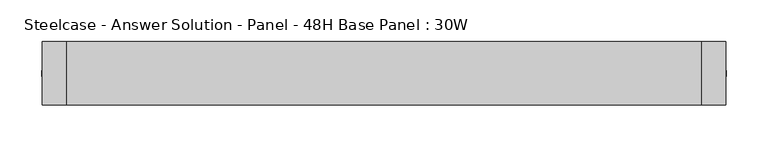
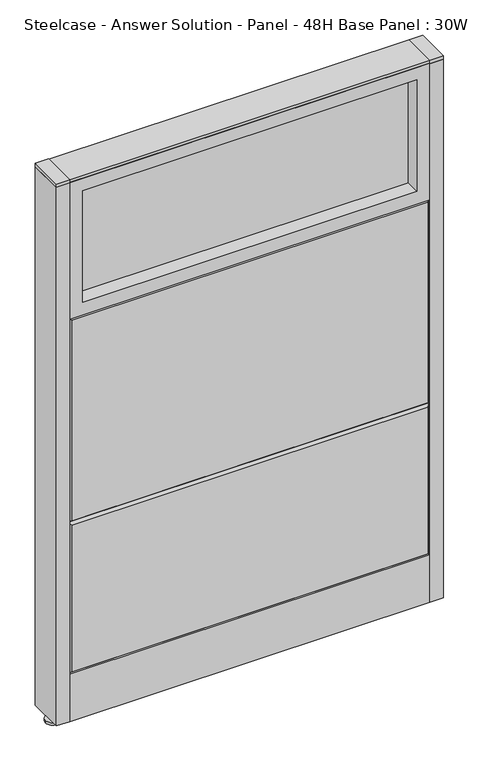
"""IFC4 building model written with IfcOpenShell, lengths in millimetres: furniture geometry, Steelcase - Answer Solution - Panel - 48H Base Panel : 30W."""

import ifcopenshell
import ifcopenshell.guid

model = None  # the IFC model being written
_history = None  # IfcOwnerHistory: only IFC2X3 demands one
_inside = {}  # id of a spatial element -> (the spatial element, [elements in it])
_under = {}  # id of a project, library or spatial element -> (it, [spatial elements below it])
_declared = {}  # id of a project -> (the project, [libraries it declares])
_typed = {}  # id of a type object -> (the type object, [elements of that type])
_made_of = {}  # id of a material, layer set ... -> (it, [elements and type objects made of it])


def new_model(schema):
    """Start an empty IFC model of exactly this schema.

    Asked for "IFC4X3", IfcOpenShell would pick the latest addendum, in which some entities
    have other attributes; the version numbers below select the first issue.
    IFC2X3 requires an IfcOwnerHistory on every rooted entity: one is made here for all.
    """
    global model, _history
    if schema == "IFC4X3":
        model = ifcopenshell.file(schema_version=(4, 3, 0, 0))
    else:
        model = ifcopenshell.file(schema=schema)
    _inside.clear()
    _under.clear()
    _declared.clear()
    _typed.clear()
    _made_of.clear()
    _history = None
    if model.schema == "IFC2X3":
        org = make("IfcOrganization", Name="unknown")
        user = make(
            "IfcPersonAndOrganization",
            ThePerson=make("IfcPerson", FamilyName="unknown"),
            TheOrganization=org,
        )
        app = make(
            "IfcApplication",
            ApplicationDeveloper=org,
            Version="unknown",
            ApplicationFullName="unknown",
            ApplicationIdentifier="unknown",
        )
        _history = make(
            "IfcOwnerHistory",
            OwningUser=user,
            OwningApplication=app,
            ChangeAction="ADDED",
            CreationDate=0,
        )
    return model


def make(cls, **values):
    """One entity of the class cls with the attributes given. An attribute that is None is left unset."""
    return model.create_entity(
        cls, **{name: value for name, value in values.items() if value is not None}
    )


def rooted(cls, **values):
    """An entity with a GlobalId (a new one), such as an element, a storey or a relation."""
    return make(cls, GlobalId=ifcopenshell.guid.new(), OwnerHistory=_history, **values)


def si_unit(unit_type, name, prefix=None):
    """IfcSIUnit, for example si_unit("LENGTHUNIT", "METRE", prefix="MILLI")."""
    return make("IfcSIUnit", UnitType=unit_type, Prefix=prefix, Name=name)


def assignment(units):
    """IfcUnitAssignment: the units of a project."""
    return None if units is None else make("IfcUnitAssignment", Units=units)


def point(xyz):
    """IfcCartesianPoint."""
    return None if xyz is None else make("IfcCartesianPoint", Coordinates=xyz)


def direction(xyz):
    """IfcDirection."""
    return None if xyz is None else make("IfcDirection", DirectionRatios=xyz)


def frame(location, z_axis=None, x_axis=None):
    """IfcAxis2Placement3D, a coordinate frame: its origin and axes. An axis left out is left unset."""
    return make(
        "IfcAxis2Placement3D",
        Location=point(location),
        Axis=direction(z_axis),
        RefDirection=direction(x_axis),
    )


def frame_2d(location, x_axis=None):
    """IfcAxis2Placement2D, a coordinate frame in the plane: its origin and x axis."""
    return make(
        "IfcAxis2Placement2D", Location=point(location), RefDirection=direction(x_axis)
    )


def origin():
    """The frame at (0, 0, 0) with its axes left unset."""
    return frame((0.0, 0.0, 0.0))


def place(relative_to, where):
    """IfcLocalPlacement: puts the frame where relative to a parent placement (None: the world)."""
    return make(
        "IfcLocalPlacement", PlacementRelTo=relative_to, RelativePlacement=where
    )


def context(
    kind, dimensions, precision=None, world=None, true_north=None, identifier=None
):
    """IfcGeometricRepresentationContext, for example the 3D "Model" context."""
    return make(
        "IfcGeometricRepresentationContext",
        ContextIdentifier=identifier,
        ContextType=kind,
        CoordinateSpaceDimension=dimensions,
        Precision=precision,
        WorldCoordinateSystem=world,
        TrueNorth=true_north,
    )


def project(units=None, contexts=None):
    """IfcProject with its units and contexts."""
    return rooted(
        "IfcProject",
        Name="project",
        RepresentationContexts=contexts,
        UnitsInContext=assignment(units),
    )


def spatial(cls, under=None, at=None, **own):
    """A site, building, storey or space (cls), placed at a placement, below another one or the project."""
    s = rooted(cls, ObjectPlacement=at, **own)
    if under is not None:
        _under.setdefault(under.id(), (under, []))[1].append(s)
    return s


def polyline(points):
    """IfcPolyline through the points."""
    return make("IfcPolyline", Points=[point(p) for p in points])


def circle_curve(where, radius):
    """IfcCircle in the frame where."""
    return make("IfcCircle", Position=where, Radius=radius)


def trimmed(basis, trim1, trim2, sense, master):
    """IfcTrimmedCurve: the piece of a basis curve between two trims."""
    return make(
        "IfcTrimmedCurve",
        BasisCurve=basis,
        Trim1=trim1,
        Trim2=trim2,
        SenseAgreement=sense,
        MasterRepresentation=master,
    )


def segment(curve, same_sense, transition):
    """IfcCompositeCurveSegment."""
    return make(
        "IfcCompositeCurveSegment",
        Transition=transition,
        SameSense=same_sense,
        ParentCurve=curve,
    )


def composite_curve(segments, self_intersect=None):
    """IfcCompositeCurve: segments joined end to end."""
    return make("IfcCompositeCurve", Segments=segments, SelfIntersect=self_intersect)


def outline(outer, holes=None, kind="AREA"):
    """IfcArbitraryClosedProfileDef: a profile drawn as a closed curve; with holes, ...WithVoids."""
    if holes is None:
        return make("IfcArbitraryClosedProfileDef", ProfileType=kind, OuterCurve=outer)
    return make(
        "IfcArbitraryProfileDefWithVoids",
        ProfileType=kind,
        OuterCurve=outer,
        InnerCurves=holes,
    )


def extrude(swept, where, along, depth):
    """IfcExtrudedAreaSolid: the profile swept, set in the frame where, extruded along a direction by depth."""
    return make(
        "IfcExtrudedAreaSolid",
        SweptArea=swept,
        Position=where,
        ExtrudedDirection=direction(along),
        Depth=depth,
    )


def faces_of(points, faces, orient=None, outer=None):
    """IfcFace entities. A face is a list of loops; a loop is a list of indices into points, from 0.

    orient and outer hold one flag for each loop. By default every Orientation is true, the
    first loop of a face is its IfcFaceOuterBound and the others are IfcFaceBound.
    """
    made = []
    for i, loops in enumerate(faces):
        bounds = []
        for j, loop in enumerate(loops):
            is_outer = j == 0 if outer is None else outer[i][j]
            bounds.append(
                make(
                    "IfcFaceOuterBound" if is_outer else "IfcFaceBound",
                    Bound=make("IfcPolyLoop", Polygon=[points[k] for k in loop]),
                    Orientation=True if orient is None else orient[i][j],
                )
            )
        made.append(make("IfcFace", Bounds=bounds))
    return made


def faceted_brep(points, faces, orient=None, outer=None, voids=None):
    """IfcFacetedBrep: a solid bounded by flat faces; with voids (closed shells), ...WithVoids."""
    shared = [point(p) for p in points]
    hull = make("IfcClosedShell", CfsFaces=faces_of(shared, faces, orient, outer))
    if voids is None:
        return make("IfcFacetedBrep", Outer=hull)
    return make(
        "IfcFacetedBrepWithVoids",
        Outer=hull,
        Voids=[
            make(cls, CfsFaces=faces_of(shared, fs, o, b)) for cls, fs, o, b in voids
        ],
    )


def shape(context_of_items, identifier, shape_type, items):
    """IfcShapeRepresentation: the items that make up one representation, for example the "Body"."""
    return make(
        "IfcShapeRepresentation",
        ContextOfItems=context_of_items,
        RepresentationIdentifier=identifier,
        RepresentationType=shape_type,
        Items=items,
    )


def source(mapping_origin, context_of_items, identifier, shape_type, items):
    """IfcRepresentationMap: a shape defined once, which mapped items show again and again."""
    return make(
        "IfcRepresentationMap",
        MappingOrigin=mapping_origin,
        MappedRepresentation=shape(context_of_items, identifier, shape_type, items),
    )


def transform(
    local_origin,
    x_axis=None,
    y_axis=None,
    z_axis=None,
    scale=None,
    scale2=None,
    scale3=None,
    uniform=True,
):
    """IfcCartesianTransformationOperator3D, or its non-uniform kind. x_axis, y_axis, z_axis: its Axis1, 2, 3."""
    if uniform:
        return make(
            "IfcCartesianTransformationOperator3D",
            Axis1=direction(x_axis),
            Axis2=direction(y_axis),
            LocalOrigin=point(local_origin),
            Scale=scale,
            Axis3=direction(z_axis),
        )
    return make(
        "IfcCartesianTransformationOperator3DnonUniform",
        Axis1=direction(x_axis),
        Axis2=direction(y_axis),
        LocalOrigin=point(local_origin),
        Scale=scale,
        Axis3=direction(z_axis),
        Scale2=scale2,
        Scale3=scale3,
    )


def mapped(mapping_source, mapping_target):
    """IfcMappedItem: shows the shape of a source again, moved by a transform."""
    return make(
        "IfcMappedItem", MappingSource=mapping_source, MappingTarget=mapping_target
    )


def made_of(thing, what):
    """Note that an element or type object is made of a material, layer set ...; save() writes the relation."""
    if what is not None:
        _made_of.setdefault(what.id(), (what, []))[1].append(thing)
    return thing


def element(
    cls,
    number,
    at=None,
    inside=None,
    cuts=None,
    type_object=None,
    material=None,
    context=None,
    identifier="Body",
    shape_type=None,
    held_by="IfcProductDefinitionShape",
    body=None,
    shapes=None,
    **own,
):
    """One element of the class cls, such as IfcWall. Its Tag is "e" and its number.

    at: its placement. inside: the storey or other place that contains it. cuts: it is an
    opening in that element (IfcRelVoidsElement). A single representation is given by context,
    identifier, shape_type and body (its items); several are given by shapes. held_by: the class
    of the entity that holds the representations. save() writes the other relations.
    """
    e = rooted(cls, Tag="e%d" % number, ObjectPlacement=at, **own)
    if body is not None:
        shapes = [shape(context, identifier, shape_type, body)]
    if shapes is not None:
        e.Representation = make(held_by, Representations=shapes)
    if inside is not None:
        _inside.setdefault(inside.id(), (inside, []))[1].append(e)
    if cuts is not None:
        rooted(
            "IfcRelVoidsElement", RelatingBuildingElement=cuts, RelatedOpeningElement=e
        )
    if type_object is not None:
        _typed.setdefault(type_object.id(), (type_object, []))[1].append(e)
    return made_of(e, material)


def aggregate(whole, parts):
    """IfcRelAggregates: a whole, such as a stair, and the parts it consists of."""
    return rooted("IfcRelAggregates", RelatingObject=whole, RelatedObjects=parts)


def save(model, path):
    """Write the relations noted so far, then the file.

    IfcRelAggregates (storeys below a building ...), IfcRelContainedInSpatialStructure (elements
    in a storey), IfcRelDefinesByType, IfcRelAssociatesMaterial and IfcRelDeclares: one each for
    every whole, place, type object, material and project.
    """
    for whole, parts in _under.values():
        aggregate(whole, parts)
    for where, things in _inside.values():
        rooted(
            "IfcRelContainedInSpatialStructure",
            RelatedElements=things,
            RelatingStructure=where,
        )
    for kind, things in _typed.values():
        rooted("IfcRelDefinesByType", RelatedObjects=things, RelatingType=kind)
    for what, things in _made_of.values():
        rooted("IfcRelAssociatesMaterial", RelatedObjects=things, RelatingMaterial=what)
    for by, libraries in _declared.values():
        rooted("IfcRelDeclares", RelatingContext=by, RelatedDefinitions=libraries)
    model.write(path)


def steelcase_answer_solution_panel_48h_base_panel_30w_e3e7fd3b(model_context):
    return source(origin(), model_context, "Body", "SolidModel", [
        extrude(outline(composite_curve([segment(trimmed(circle_curve(frame_2d((395.224, 0.0320214)), 5.08), [point((400.304, 0.0320214))], [point((390.144, 0.0320214))], False, "CARTESIAN"), True, "CONTINUOUS"), segment(trimmed(circle_curve(frame_2d((395.224, 0.0320214)), 5.08), [point((390.144, 0.0320214))], [point((400.304, 0.0320214))], False, "CARTESIAN"), True, "CONTINUOUS")], self_intersect=False)), frame((0.0, 0.0, 5.0799671), z_axis=(0.0, 0.0, 1.0), x_axis=(1.0, 0.0, 0.0)), (0.0, 0.0, 1.0), 10.414),
        extrude(outline(composite_curve([segment(trimmed(circle_curve(frame_2d((395.224, 0.0320214)), 15.24), [point((410.464, 0.0320214))], [point((379.984, 0.0320214))], False, "CARTESIAN"), True, "CONTINUOUS"), segment(trimmed(circle_curve(frame_2d((395.224, 0.0320214)), 15.24), [point((379.984, 0.0320214))], [point((410.464, 0.0320214))], False, "CARTESIAN"), True, "CONTINUOUS")], self_intersect=False)), frame((0.0, 0.0, -3.29e-05), z_axis=(0.0, 0.0, 1.0), x_axis=(1.0, 0.0, 0.0)), (0.0, 0.0, 1.0), 5.08),
        extrude(outline(polyline([(409.575, 38.1320408), (409.575, -38.0679592), (381.0, -38.0679592), (381.0, 38.1320408), (409.575, 38.1320408)])), frame((0.0, 0.0, 1218.2348), z_axis=(0.0, 0.0, 1.0), x_axis=(1.0, 0.0, 0.0)), (0.0, 0.0, 1.0), 7.3151671),
        extrude(outline(polyline([(409.575, 38.1320408), (409.575, -38.0679592), (381.0, -38.0679592), (381.0, 38.1320408), (409.575, 38.1320408)])), frame((0.0, 0.0, 15.4939671), z_axis=(0.0, 0.0, 1.0), x_axis=(1.0, 0.0, 0.0)), (0.0, 0.0, 1.0), 1202.7408329),
        extrude(outline(composite_curve([segment(trimmed(circle_curve(frame_2d((-395.224, 0.0320214)), 5.08), [point((-400.304, 0.0320214))], [point((-390.144, 0.0320214))], False, "CARTESIAN"), True, "CONTINUOUS"), segment(trimmed(circle_curve(frame_2d((-395.224, 0.0320214)), 5.08), [point((-390.144, 0.0320214))], [point((-400.304, 0.0320214))], False, "CARTESIAN"), True, "CONTINUOUS")], self_intersect=False)), frame((0.0, 0.0, 5.0799671), z_axis=(0.0, 0.0, 1.0), x_axis=(1.0, 0.0, 0.0)), (0.0, 0.0, 1.0), 10.414),
        extrude(outline(composite_curve([segment(trimmed(circle_curve(frame_2d((-395.224, 0.0320214)), 15.24), [point((-410.464, 0.0320214))], [point((-379.984, 0.0320214))], False, "CARTESIAN"), True, "CONTINUOUS"), segment(trimmed(circle_curve(frame_2d((-395.224, 0.0320214)), 15.24), [point((-379.984, 0.0320214))], [point((-410.464, 0.0320214))], False, "CARTESIAN"), True, "CONTINUOUS")], self_intersect=False)), frame((0.0, 0.0, -3.29e-05), z_axis=(0.0, 0.0, 1.0), x_axis=(1.0, 0.0, 0.0)), (0.0, 0.0, 1.0), 5.08),
        extrude(outline(polyline([(-409.575, 38.1320408), (-381.0, 38.1320408), (-381.0, -38.0679592), (-409.575, -38.0679592), (-409.575, 38.1320408)])), frame((0.0, 0.0, 1218.2348), z_axis=(0.0, 0.0, 1.0), x_axis=(1.0, 0.0, 0.0)), (0.0, 0.0, 1.0), 7.3151671),
        extrude(outline(polyline([(-409.575, 38.1320408), (-381.0, 38.1320408), (-381.0, -38.0679592), (-409.575, -38.0679592), (-409.575, 38.1320408)])), frame((0.0, 0.0, 15.4939671), z_axis=(0.0, 0.0, 1.0), x_axis=(1.0, 0.0, 0.0)), (0.0, 0.0, 1.0), 1202.7408329),
        extrude(outline(polyline([(-353.06, 6.346049), (353.06, 6.346049), (353.06, -6.353951), (-353.06, -6.353951), (-353.06, 6.346049)])), frame((0.0, 0.0, 942.34), z_axis=(0.0, 0.0, 1.0), x_axis=(1.0, 0.0, 0.0)), (0.0, 0.0, 1.0), 248.92),
        extrude(outline(polyline([(1219.2, -381.0), (914.4, -381.0), (914.4, 381.0), (1219.2, 381.0), (1219.2, -381.0)]), holes=[polyline([(1191.26, -353.06), (1191.26, 353.06), (942.34, 353.06), (942.34, -353.06), (1191.26, -353.06)])]), frame((0.0, -38.103951, 0.0), z_axis=(0.0, 1.0, 0.0), x_axis=(0.0, 0.0, 1.0)), (0.0, 0.0, 1.0), 76.2),
        faceted_brep([(-376.174, 38.1635011, 909.574), (376.174, 38.1635011, 909.574), (376.174, 38.1635011, 462.026), (-376.174, 38.1635011, 462.026), (-381.0, 33.3375011, 914.4), (-381.0, 33.3375011, 457.2), (381.0, 33.3375011, 457.2), (381.0, 33.3375011, 914.4)], [[[0, 1, 2, 3]], [[4, 5, 6, 7]], [[4, 7, 1, 0]], [[7, 6, 2, 1]], [[6, 5, 3, 2]], [[5, 4, 0, 3]]]),
        faceted_brep([(-376.174, 38.1635011, 452.374), (376.174, 38.1635011, 452.374), (376.174, 38.1635011, 125.476), (-376.174, 38.1635011, 125.476), (-381.0, 33.3375011, 457.2), (-381.0, 33.3375011, 120.65), (381.0, 33.3375011, 120.65), (381.0, 33.3375011, 457.2)], [[[0, 1, 2, 3]], [[4, 5, 6, 7]], [[4, 7, 1, 0]], [[7, 6, 2, 1]], [[6, 5, 3, 2]], [[5, 4, 0, 3]]]),
        extrude(outline(polyline([(353.06, -6.346049), (-353.06, -6.346049), (-353.06, 6.353951), (353.06, 6.353951), (353.06, -6.346049)])), frame((0.0, 0.0, 942.34), z_axis=(0.0, 0.0, 1.0), x_axis=(1.0, 0.0, 0.0)), (0.0, 0.0, 1.0), 248.92),
        extrude(outline(polyline([(1219.2, 381.0), (1219.2, -381.0), (914.4, -381.0), (914.4, 381.0), (1219.2, 381.0)]), holes=[polyline([(1191.26, 353.06), (942.34, 353.06), (942.34, -353.06), (1191.26, -353.06), (1191.26, 353.06)])]), frame((0.0, -38.096049, 0.0), z_axis=(0.0, 1.0, 0.0), x_axis=(0.0, 0.0, 1.0)), (0.0, 0.0, 1.0), 76.2),
        faceted_brep([(376.174, -38.1635011, 909.574), (-376.174, -38.1635011, 909.574), (-376.174, -38.1635011, 462.026), (376.174, -38.1635011, 462.026), (381.0, -33.3375011, 914.4), (381.0, -33.3375011, 457.2), (-381.0, -33.3375011, 457.2), (-381.0, -33.3375011, 914.4)], [[[0, 1, 2, 3]], [[4, 5, 6, 7]], [[4, 7, 1, 0]], [[7, 6, 2, 1]], [[6, 5, 3, 2]], [[5, 4, 0, 3]]]),
        faceted_brep([(376.174, -38.1635011, 452.374), (-376.174, -38.1635011, 452.374), (-376.174, -38.1635011, 125.476), (376.174, -38.1635011, 125.476), (381.0, -33.3375011, 457.2), (381.0, -33.3375011, 120.65), (-381.0, -33.3375011, 120.65), (-381.0, -33.3375011, 457.2)], [[[0, 1, 2, 3]], [[4, 5, 6, 7]], [[4, 7, 1, 0]], [[7, 6, 2, 1]], [[6, 5, 3, 2]], [[5, 4, 0, 3]]]),
        extrude(outline(polyline([(381.0, 38.1000194), (381.0, -38.1000194), (-381.0, -38.1000194), (-381.0, 38.1000194), (381.0, 38.1000194)])), frame((0.0, 0.0, 1219.2), z_axis=(0.0, 0.0, 1.0), x_axis=(1.0, 0.0, 0.0)), (0.0, 0.0, 1.0), 6.35),
        extrude(outline(polyline([(25.4000011, 119.8575157), (25.4000011, 120.65), (38.1000194, 120.65), (38.1000194, 15.494), (37.3075215, 15.494), (37.3075215, 119.8575157), (25.4000011, 119.8575157)])), frame((-381.0, 0.0, 0.0), z_axis=(1.0, 0.0, 0.0), x_axis=(0.0, 1.0, 0.0)), (0.0, 0.0, 1.0), 762.0),
        extrude(outline(polyline([(-25.4000011, 119.8575157), (-37.3075215, 119.8575157), (-37.3075215, 15.494), (-38.1000194, 15.494), (-38.1000194, 120.65), (-25.4000011, 120.65), (-25.4000011, 119.8575157)])), frame((-381.0, 0.0, 0.0), z_axis=(1.0, 0.0, 0.0), x_axis=(0.0, 1.0, 0.0)), (0.0, 0.0, 1.0), 762.0),
    ])


if __name__ == "__main__":
    model = new_model("IFC4")
    model_context = context("Model", 3, world=origin())
    ifc_project = project(units=[si_unit("LENGTHUNIT", "METRE", prefix="MILLI")], contexts=[model_context])
    site = spatial("IfcSite", under=ifc_project)
    building = spatial("IfcBuilding", under=site)
    placement = place(None, origin())
    steelcase_answer_solution_panel_48h_base_panel_30w_shape = steelcase_answer_solution_panel_48h_base_panel_30w_e3e7fd3b(model_context)
    element("IfcFurniture", 1, ObjectType="Steelcase - Answer Solution - Panel - 48H Base Panel : 30W", at=placement, inside=building, context=model_context, shape_type="MappedRepresentation", body=[
        mapped(steelcase_answer_solution_panel_48h_base_panel_30w_shape, transform((0.0, 0.0, 0.0), x_axis=(1.0, 0.0, 0.0), y_axis=(0.0, 1.0, 0.0), z_axis=(0.0, 0.0, 1.0))),
    ])
    save(model, "model.ifc")
